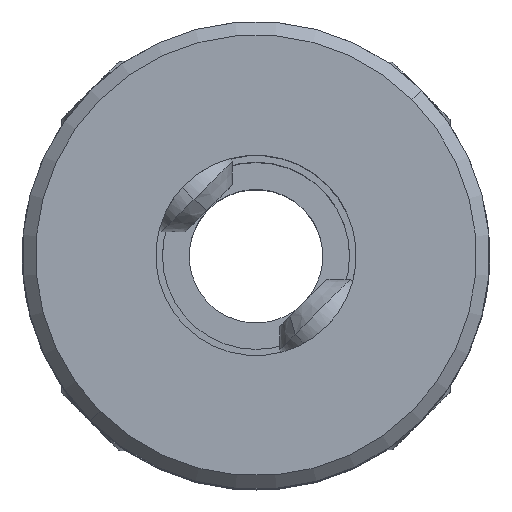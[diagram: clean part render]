
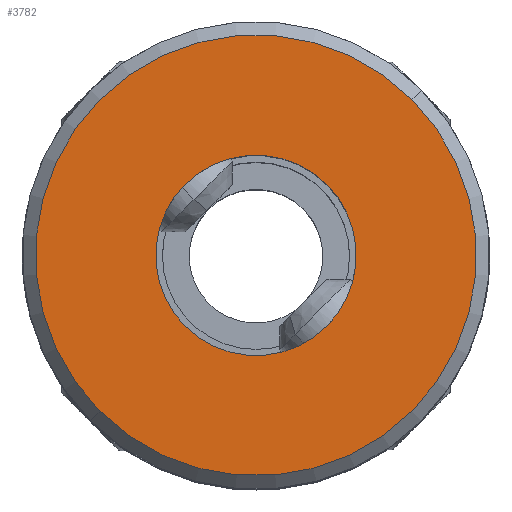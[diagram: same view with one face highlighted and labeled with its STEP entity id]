
A CAD part, top view. The second image highlights one B-rep face of the part: STEP entity #3782.
In plain terms, the highlighted planar face has unit normal (0, 0, 1).
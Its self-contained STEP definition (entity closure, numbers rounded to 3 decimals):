
#307 = DIRECTION ( 'NONE',  ( 0., 0., -1. ) ) ;
#478 = ORIENTED_EDGE ( 'NONE', *, *, #4417, .T. ) ;
#1107 = FACE_OUTER_BOUND ( 'NONE', #9229, .T. ) ;
#1700 = CIRCLE ( 'NONE', #3406, 6.6 ) ;
#1999 = DIRECTION ( 'NONE',  ( -0.707, -0.707, 0. ) ) ;
#2177 = DIRECTION ( 'NONE',  ( 0., 0., -1. ) ) ;
#2264 = VERTEX_POINT ( 'NONE', #5130 ) ;
#2781 = AXIS2_PLACEMENT_3D ( 'NONE', #3704, #5382, #7995 ) ;
#3406 = AXIS2_PLACEMENT_3D ( 'NONE', #6562, #7286, #9811 ) ;
#3525 = CARTESIAN_POINT ( 'NONE',  ( -2.121, -2.121, 11. ) ) ;
#3704 = CARTESIAN_POINT ( 'NONE',  ( 0., 0., 11. ) ) ;
#3782 = ADVANCED_FACE ( 'NONE', ( #1107, #4489 ), #6235, .F. ) ;
#4276 = AXIS2_PLACEMENT_3D ( 'NONE', #6633, #4861, #10637 ) ;
#4372 = CIRCLE ( 'NONE', #4276, 6.6 ) ;
#4374 = EDGE_CURVE ( 'NONE', #7243, #2264, #5859, .T. ) ;
#4417 = EDGE_CURVE ( 'NONE', #8709, #5871, #1700, .T. ) ;
#4489 = FACE_BOUND ( 'NONE', #6721, .T. ) ;
#4861 = DIRECTION ( 'NONE',  ( 0., 0., 1. ) ) ;
#5018 = CIRCLE ( 'NONE', #6748, 3. ) ;
#5130 = CARTESIAN_POINT ( 'NONE',  ( 2.121, 2.121, 11. ) ) ;
#5382 = DIRECTION ( 'NONE',  ( 0., 0., -1. ) ) ;
#5788 = CARTESIAN_POINT ( 'NONE',  ( 4.667, 4.667, 11. ) ) ;
#5859 = CIRCLE ( 'NONE', #7203, 3. ) ;
#5871 = VERTEX_POINT ( 'NONE', #5788 ) ;
#6235 = PLANE ( 'NONE',  #2781 ) ;
#6456 = ORIENTED_EDGE ( 'NONE', *, *, #6699, .T. ) ;
#6562 = CARTESIAN_POINT ( 'NONE',  ( 0., 0., 11. ) ) ;
#6572 = EDGE_CURVE ( 'NONE', #5871, #8709, #4372, .T. ) ;
#6633 = CARTESIAN_POINT ( 'NONE',  ( 0., 0., 11. ) ) ;
#6699 = EDGE_CURVE ( 'NONE', #2264, #7243, #5018, .T. ) ;
#6721 = EDGE_LOOP ( 'NONE', ( #7018, #6456 ) ) ;
#6748 = AXIS2_PLACEMENT_3D ( 'NONE', #10313, #307, #1999 ) ;
#7018 = ORIENTED_EDGE ( 'NONE', *, *, #4374, .T. ) ;
#7186 = CARTESIAN_POINT ( 'NONE',  ( 0., 0., 11. ) ) ;
#7203 = AXIS2_PLACEMENT_3D ( 'NONE', #7186, #2177, #9728 ) ;
#7243 = VERTEX_POINT ( 'NONE', #3525 ) ;
#7286 = DIRECTION ( 'NONE',  ( 0., 0., 1. ) ) ;
#7995 = DIRECTION ( 'NONE',  ( -0.707, -0.707, 0. ) ) ;
#8341 = ORIENTED_EDGE ( 'NONE', *, *, #6572, .T. ) ;
#8709 = VERTEX_POINT ( 'NONE', #9221 ) ;
#9221 = CARTESIAN_POINT ( 'NONE',  ( -4.667, -4.667, 11. ) ) ;
#9229 = EDGE_LOOP ( 'NONE', ( #478, #8341 ) ) ;
#9728 = DIRECTION ( 'NONE',  ( -0.707, -0.707, 0. ) ) ;
#9811 = DIRECTION ( 'NONE',  ( -0.707, -0.707, 0. ) ) ;
#10313 = CARTESIAN_POINT ( 'NONE',  ( 0., 0., 11. ) ) ;
#10637 = DIRECTION ( 'NONE',  ( -0.707, -0.707, 0. ) ) ;
